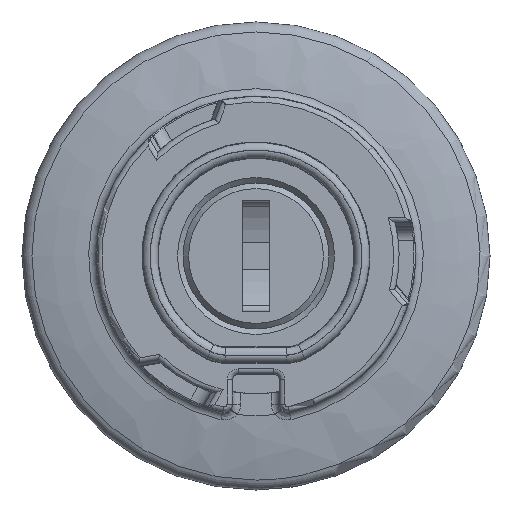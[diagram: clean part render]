
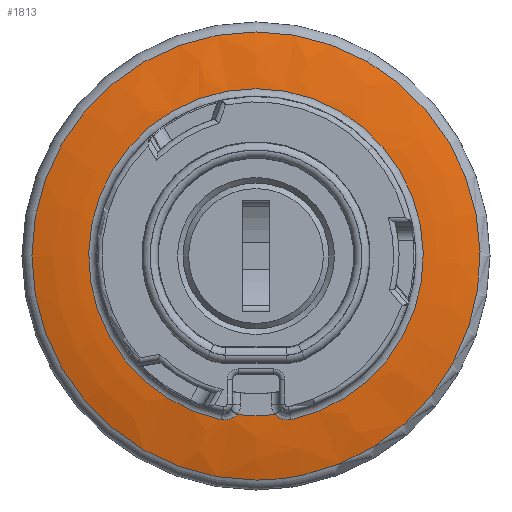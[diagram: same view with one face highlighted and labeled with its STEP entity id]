
A CAD part, left-side view. The second image highlights one B-rep face of the part: STEP entity #1813.
In plain terms, the highlighted free-form (B-spline) face has degree [3, 3] with [4, 7] control points.
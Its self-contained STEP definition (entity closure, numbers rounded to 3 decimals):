
#197=(
BOUNDED_SURFACE()
B_SPLINE_SURFACE(3,3,((#20133,#20134,#20135,#20136,#20137,#20138,#20139),
(#20140,#20141,#20142,#20143,#20144,#20145,#20146),(#20147,#20148,#20149,
#20150,#20151,#20152,#20153),(#20154,#20155,#20156,#20157,#20158,#20159,
#20160)),.UNSPECIFIED.,.F.,.T.,.F.)
B_SPLINE_SURFACE_WITH_KNOTS((4,4),(1,3,3,3,1),(0.,1.),(-0.5,0.,0.5,1.,1.5),
 .UNSPECIFIED.)
GEOMETRIC_REPRESENTATION_ITEM()
RATIONAL_B_SPLINE_SURFACE(((1.,0.333,0.333,1.,0.333,
0.333,1.),(0.995,0.332,0.332,
0.995,0.332,0.332,0.995),
(0.995,0.332,0.332,0.995,
0.332,0.332,0.995),(1.,0.333,
0.333,1.,0.333,0.333,1.)))
REPRESENTATION_ITEM('')
SURFACE()
);
#1248=B_SPLINE_CURVE_WITH_KNOTS('',3,(#20013,#20014,#20015,#20016,#20017,
#20018,#20019),.UNSPECIFIED.,.F.,.F.,(4,3,4),(0.,0.579,1.),
 .UNSPECIFIED.);
#1250=B_SPLINE_CURVE_WITH_KNOTS('',3,(#20041,#20042,#20043,#20044,#20045,
#20046,#20047,#20048,#20049,#20050,#20051,#20052,#20053,#20054,#20055,#20056),
 .UNSPECIFIED.,.F.,.F.,(4,3,3,3,3,4),(0.,0.316,0.632,
0.945,0.996,1.),.UNSPECIFIED.);
#1251=B_SPLINE_CURVE_WITH_KNOTS('',3,(#20075,#20076,#20077,#20078,#20079,
#20080,#20081,#20082,#20083,#20084,#20085,#20086,#20087,#20088,#20089,#20090),
 .UNSPECIFIED.,.F.,.F.,(4,3,3,3,3,4),(0.,0.004,0.055,
0.368,0.684,1.),.UNSPECIFIED.);
#1253=B_SPLINE_CURVE_WITH_KNOTS('',3,(#20123,#20124,#20125,#20126,#20127,
#20128,#20129),.UNSPECIFIED.,.F.,.F.,(4,3,4),(0.,0.581,1.),
 .UNSPECIFIED.);
#1813=ADVANCED_FACE('',(#2114,#2115),#197,.T.);
#2114=FACE_BOUND('',#2722,.T.);
#2115=FACE_BOUND('',#2723,.T.);
#2722=EDGE_LOOP('',(#7165));
#2723=EDGE_LOOP('',(#7166,#7167,#7168,#7169,#7170,#7171));
#7165=ORIENTED_EDGE('',*,*,#9619,.T.);
#7166=ORIENTED_EDGE('',*,*,#9618,.T.);
#7167=ORIENTED_EDGE('',*,*,#9616,.T.);
#7168=ORIENTED_EDGE('',*,*,#9614,.T.);
#7169=ORIENTED_EDGE('',*,*,#9612,.T.);
#7170=ORIENTED_EDGE('',*,*,#9610,.T.);
#7171=ORIENTED_EDGE('',*,*,#9608,.F.);
#8128=VERTEX_POINT('',#20008);
#8129=VERTEX_POINT('',#20010);
#8130=VERTEX_POINT('',#20020);
#8131=VERTEX_POINT('',#20057);
#8132=VERTEX_POINT('',#20072);
#8133=VERTEX_POINT('',#20091);
#8134=VERTEX_POINT('',#20132);
#9608=EDGE_CURVE('',#8128,#8129,#10117,.T.);
#9610=EDGE_CURVE('',#8130,#8129,#1248,.T.);
#9612=EDGE_CURVE('',#8131,#8130,#1250,.T.);
#9614=EDGE_CURVE('',#8132,#8131,#10120,.T.);
#9616=EDGE_CURVE('',#8133,#8132,#1251,.T.);
#9618=EDGE_CURVE('',#8128,#8133,#1253,.T.);
#9619=EDGE_CURVE('',#8134,#8134,#10122,.T.);
#10117=CIRCLE('',#11103,5.8);
#10120=CIRCLE('',#11108,6.078);
#10122=CIRCLE('',#11112,8.14);
#11103=AXIS2_PLACEMENT_3D('',#20009,#13826,#13827);
#11108=AXIS2_PLACEMENT_3D('',#20071,#13836,#13837);
#11112=AXIS2_PLACEMENT_3D('',#20131,#13844,#13845);
#13826=DIRECTION('',(-1.,0.,0.));
#13827=DIRECTION('',(0.,0.,1.));
#13836=DIRECTION('',(1.,0.,0.));
#13837=DIRECTION('',(0.,0.,-1.));
#13844=DIRECTION('',(-1.,0.,0.));
#13845=DIRECTION('',(0.,0.,-1.));
#20008=CARTESIAN_POINT('',(3.,0.686,-5.759));
#20009=CARTESIAN_POINT('',(3.,0.,0.));
#20010=CARTESIAN_POINT('',(3.,-0.686,-5.759));
#20013=CARTESIAN_POINT('',(3.,-0.694,-5.756));
#20014=CARTESIAN_POINT('',(3.,-0.692,-5.757));
#20015=CARTESIAN_POINT('',(3.,-0.691,-5.758));
#20016=CARTESIAN_POINT('',(3.,-0.69,-5.759));
#20017=CARTESIAN_POINT('',(3.,-0.689,-5.759));
#20018=CARTESIAN_POINT('',(3.,-0.687,-5.759));
#20019=CARTESIAN_POINT('',(3.,-0.686,-5.759));
#20020=CARTESIAN_POINT('',(3.,-0.694,-5.756));
#20041=CARTESIAN_POINT('',(3.017,-1.271,-5.944));
#20042=CARTESIAN_POINT('',(3.017,-1.206,-5.958));
#20043=CARTESIAN_POINT('',(3.016,-1.137,-5.961));
#20044=CARTESIAN_POINT('',(3.014,-1.071,-5.953));
#20045=CARTESIAN_POINT('',(3.013,-1.005,-5.945));
#20046=CARTESIAN_POINT('',(3.011,-0.939,-5.926));
#20047=CARTESIAN_POINT('',(3.009,-0.879,-5.897));
#20048=CARTESIAN_POINT('',(3.006,-0.82,-5.868));
#20049=CARTESIAN_POINT('',(3.004,-0.764,-5.829));
#20050=CARTESIAN_POINT('',(3.001,-0.718,-5.782));
#20051=CARTESIAN_POINT('',(3.001,-0.71,-5.774));
#20052=CARTESIAN_POINT('',(3.,-0.703,-5.766));
#20053=CARTESIAN_POINT('',(3.,-0.695,-5.758));
#20054=CARTESIAN_POINT('',(3.,-0.695,-5.758));
#20055=CARTESIAN_POINT('',(3.,-0.694,-5.757));
#20056=CARTESIAN_POINT('',(3.,-0.694,-5.756));
#20057=CARTESIAN_POINT('',(3.017,-1.271,-5.944));
#20071=CARTESIAN_POINT('',(3.017,0.,0.));
#20072=CARTESIAN_POINT('',(3.017,1.271,-5.944));
#20075=CARTESIAN_POINT('',(3.,0.694,-5.756));
#20076=CARTESIAN_POINT('',(3.,0.694,-5.757));
#20077=CARTESIAN_POINT('',(3.,0.695,-5.758));
#20078=CARTESIAN_POINT('',(3.,0.695,-5.758));
#20079=CARTESIAN_POINT('',(3.,0.703,-5.766));
#20080=CARTESIAN_POINT('',(3.001,0.71,-5.774));
#20081=CARTESIAN_POINT('',(3.001,0.718,-5.782));
#20082=CARTESIAN_POINT('',(3.004,0.764,-5.829));
#20083=CARTESIAN_POINT('',(3.006,0.82,-5.868));
#20084=CARTESIAN_POINT('',(3.009,0.879,-5.897));
#20085=CARTESIAN_POINT('',(3.011,0.939,-5.926));
#20086=CARTESIAN_POINT('',(3.013,1.005,-5.945));
#20087=CARTESIAN_POINT('',(3.014,1.071,-5.953));
#20088=CARTESIAN_POINT('',(3.016,1.137,-5.961));
#20089=CARTESIAN_POINT('',(3.017,1.206,-5.958));
#20090=CARTESIAN_POINT('',(3.017,1.271,-5.944));
#20091=CARTESIAN_POINT('',(3.,0.694,-5.756));
#20123=CARTESIAN_POINT('',(3.,0.686,-5.759));
#20124=CARTESIAN_POINT('',(3.,0.688,-5.759));
#20125=CARTESIAN_POINT('',(3.,0.689,-5.759));
#20126=CARTESIAN_POINT('',(3.,0.691,-5.758));
#20127=CARTESIAN_POINT('',(3.,0.692,-5.758));
#20128=CARTESIAN_POINT('',(3.,0.693,-5.757));
#20129=CARTESIAN_POINT('',(3.,0.694,-5.756));
#20131=CARTESIAN_POINT('',(3.388,0.,0.));
#20132=CARTESIAN_POINT('',(3.388,0.,-8.14));
#20133=CARTESIAN_POINT('',(2.999,0.,5.784));
#20134=CARTESIAN_POINT('',(2.999,11.567,5.784));
#20135=CARTESIAN_POINT('',(2.999,11.567,-5.784));
#20136=CARTESIAN_POINT('',(2.999,0.,-5.784));
#20137=CARTESIAN_POINT('',(2.999,-11.567,-5.784));
#20138=CARTESIAN_POINT('',(2.999,-11.567,5.784));
#20139=CARTESIAN_POINT('',(2.999,0.,5.784));
#20140=CARTESIAN_POINT('',(3.034,0.,6.583));
#20141=CARTESIAN_POINT('',(3.034,13.165,6.583));
#20142=CARTESIAN_POINT('',(3.034,13.165,-6.583));
#20143=CARTESIAN_POINT('',(3.034,0.,-6.583));
#20144=CARTESIAN_POINT('',(3.034,-13.165,-6.583));
#20145=CARTESIAN_POINT('',(3.034,-13.165,6.583));
#20146=CARTESIAN_POINT('',(3.034,0.,6.583));
#20147=CARTESIAN_POINT('',(3.164,0.,7.372));
#20148=CARTESIAN_POINT('',(3.164,14.744,7.372));
#20149=CARTESIAN_POINT('',(3.164,14.744,-7.372));
#20150=CARTESIAN_POINT('',(3.164,0.,-7.372));
#20151=CARTESIAN_POINT('',(3.164,-14.744,-7.372));
#20152=CARTESIAN_POINT('',(3.164,-14.744,7.372));
#20153=CARTESIAN_POINT('',(3.164,0.,7.372));
#20154=CARTESIAN_POINT('',(3.388,0.,8.14));
#20155=CARTESIAN_POINT('',(3.388,16.279,8.14));
#20156=CARTESIAN_POINT('',(3.388,16.279,-8.14));
#20157=CARTESIAN_POINT('',(3.388,0.,-8.14));
#20158=CARTESIAN_POINT('',(3.388,-16.279,-8.14));
#20159=CARTESIAN_POINT('',(3.388,-16.279,8.14));
#20160=CARTESIAN_POINT('',(3.388,0.,8.14));
